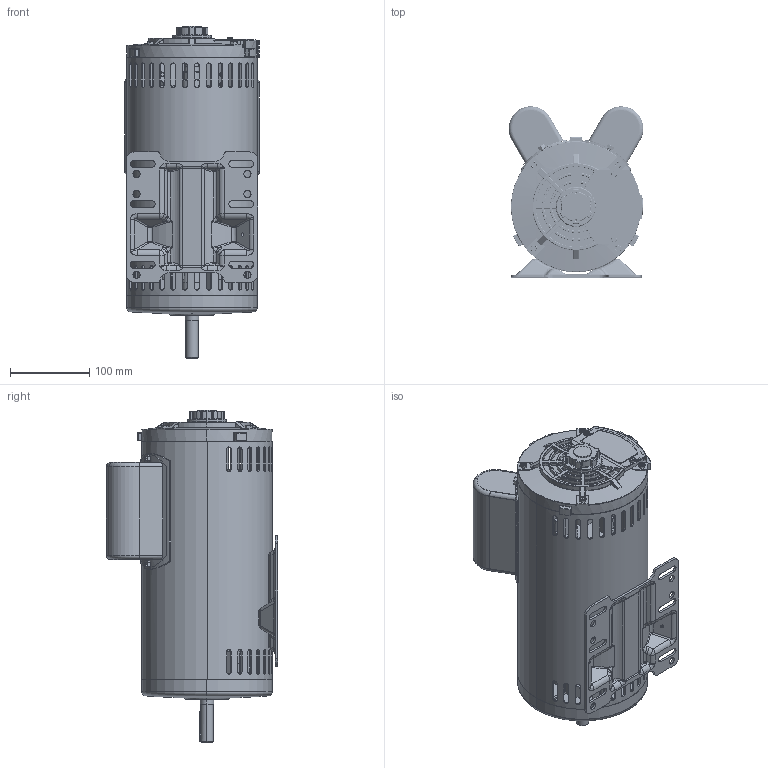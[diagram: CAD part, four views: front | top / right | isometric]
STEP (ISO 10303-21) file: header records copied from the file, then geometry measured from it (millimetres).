
FILE_DESCRIPTION (( 'STEP AP203' ), '1' );
FILE_NAME ('300.STEP', '2025-03-04T07:50:13', ( 'User' ), ( 'China' ), 'SwSTEP 2.0', 'SolidWorks 2019', '' );
FILE_SCHEMA (( 'CONFIG_CONTROL_DESIGN' ));
Length unit declared in the file: millimetre
Products named in the file (9): KRD-GCD600FA01; 蹟佪; 300儂褲; 300lg; 300-g; 300; 300-d; 300郋粣; GCC600AS01
Assembly tree (16 placements, depth 2):
  300
    300儂褲
    300-g
    300-d
    300郋粣
    GCC600AS01  x2
    KRD-GCD600FA01  x2
    蹟佪  x4
    300lg  x4
Bounding box: 169.81 x 215.47 x 418.15 mm (x, y, z)
Volume: 2651120.4 mm3; surface area: 914463.2 mm2
Topology: 31 solids, 31 shells, 3333 faces, 8751 edges, 5510 vertices
Faces by surface type: cylinder 1405, plane 1085, bspline 285, torus 282, cone 210, sphere 66
Entity records: 109120 total; most frequent: CARTESIAN_POINT 42547, ORIENTED_EDGE 14204, DIRECTION 13225, EDGE_CURVE 7102, AXIS2_PLACEMENT_3D 5051, VERTEX_POINT 4461, LINE 3123, VECTOR 3123
